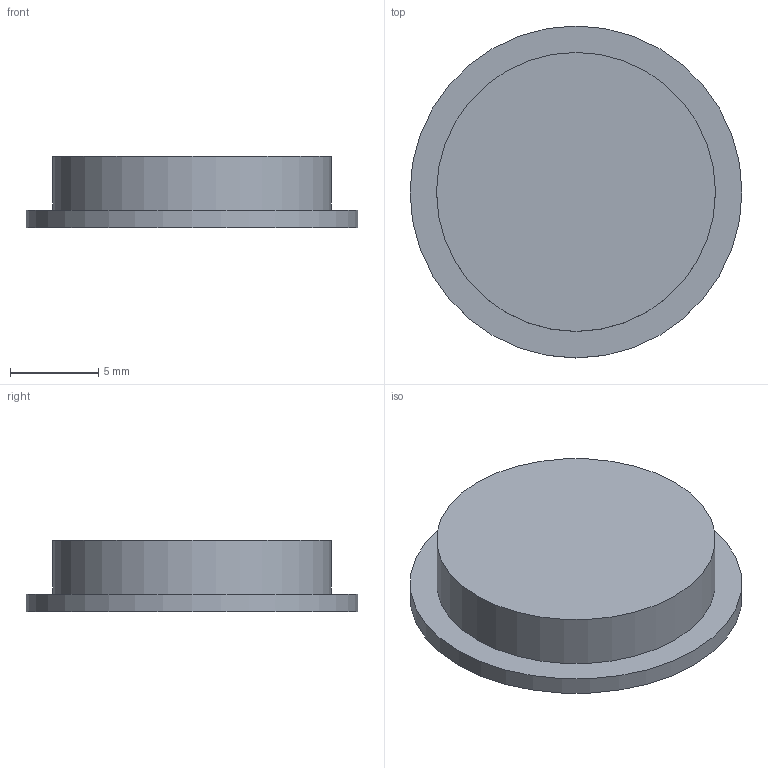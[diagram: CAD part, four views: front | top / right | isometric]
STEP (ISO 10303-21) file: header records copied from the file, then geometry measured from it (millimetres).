
FILE_DESCRIPTION(('Open CASCADE Model'),'2;1');
FILE_NAME('Open CASCADE Shape Model','2026-09-06T14:27:59',('Author'),( 'Open CASCADE'),'Open CASCADE STEP processor 7.9','Open CASCADE 7.9' ,'Unknown');
FILE_SCHEMA(('AUTOMOTIVE_DESIGN { 1 0 10303 214 1 1 1 1 }'));
Length unit declared in the file: millimetre
Products named in the file (1): Open CASCADE STEP translator 7.9 5
Bounding box: 18.8 x 18.8 x 4.05 mm (x, y, z)
Volume: 397 mm3; surface area: 904.4 mm2
Topology: 1 solids, 1 shells, 7 faces, 9 edges, 6 vertices
Faces by surface type: plane 4, cylinder 3
Full cylindrical faces by diameter (mm): 13.8 x1, 15.8 x1, 18.8 x1
Entity records: 279 total; most frequent: DIRECTION 48, CARTESIAN_POINT 47, ORIENTED_EDGE 18, PCURVE 18, DEFINITIONAL_REPRESENTATION 18, LINE 15, VECTOR 15, AXIS2_PLACEMENT_3D 14
